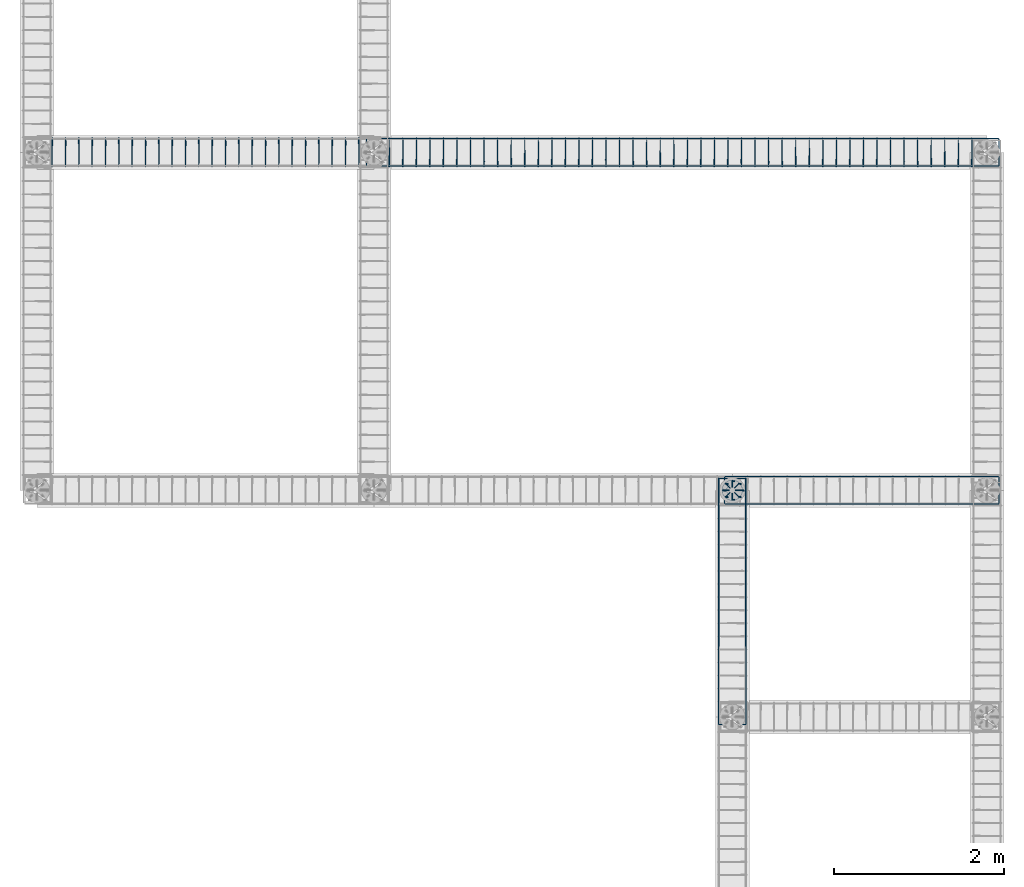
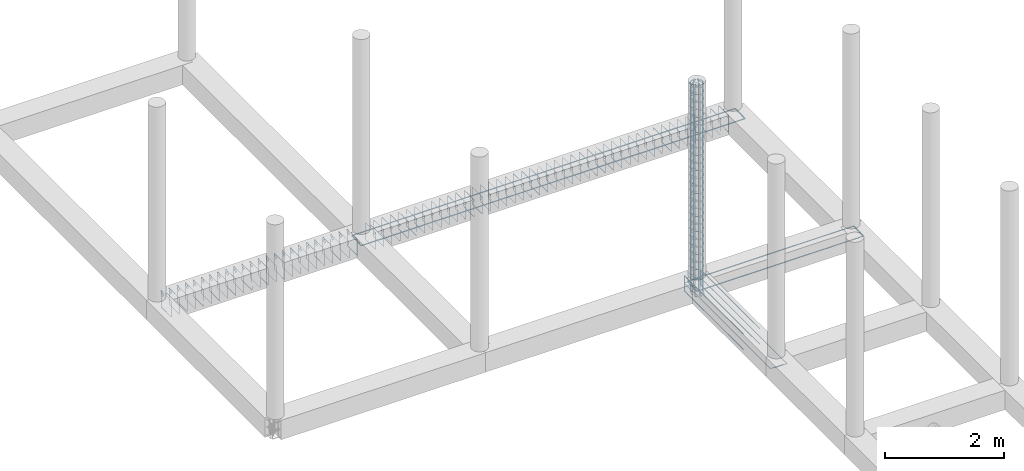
# One storey, part 13 of 20: 8 reinforcing bars.
"""IFC4 building model written with IfcOpenShell, lengths in metres."""

import ifcopenshell
import ifcopenshell.guid

model = None  # the IFC model being written
_history = None  # IfcOwnerHistory: only IFC2X3 demands one
_inside = {}  # id of a spatial element -> (the spatial element, [elements in it])
_under = {}  # id of a project, library or spatial element -> (it, [spatial elements below it])
_declared = {}  # id of a project -> (the project, [libraries it declares])
_typed = {}  # id of a type object -> (the type object, [elements of that type])
_made_of = {}  # id of a material, layer set ... -> (it, [elements and type objects made of it])


def new_model(schema):
    """Start an empty IFC model of exactly this schema.

    Asked for "IFC4X3", IfcOpenShell would pick the latest addendum, in which some entities
    have other attributes; the version numbers below select the first issue.
    IFC2X3 requires an IfcOwnerHistory on every rooted entity: one is made here for all.
    """
    global model, _history
    if schema == "IFC4X3":
        model = ifcopenshell.file(schema_version=(4, 3, 0, 0))
    else:
        model = ifcopenshell.file(schema=schema)
    _inside.clear()
    _under.clear()
    _declared.clear()
    _typed.clear()
    _made_of.clear()
    _history = None
    if model.schema == "IFC2X3":
        org = make("IfcOrganization", Name="unknown")
        user = make(
            "IfcPersonAndOrganization",
            ThePerson=make("IfcPerson", FamilyName="unknown"),
            TheOrganization=org,
        )
        app = make(
            "IfcApplication",
            ApplicationDeveloper=org,
            Version="unknown",
            ApplicationFullName="unknown",
            ApplicationIdentifier="unknown",
        )
        _history = make(
            "IfcOwnerHistory",
            OwningUser=user,
            OwningApplication=app,
            ChangeAction="ADDED",
            CreationDate=0,
        )
    return model


def make(cls, **values):
    """One entity of the class cls with the attributes given. An attribute that is None is left unset."""
    return model.create_entity(
        cls, **{name: value for name, value in values.items() if value is not None}
    )


def entity(cls, *values):
    """Any entity or typed value of the class cls, its attributes in the order of the schema. None: left unset."""
    e = model.create_entity(cls)
    for i, value in enumerate(values):
        if value is not None:
            e[i] = value
    return e


def rooted(cls, **values):
    """An entity with a GlobalId (a new one), such as an element, a storey or a relation."""
    return make(cls, GlobalId=ifcopenshell.guid.new(), OwnerHistory=_history, **values)


def si_unit(unit_type, name, prefix=None):
    """IfcSIUnit, for example si_unit("LENGTHUNIT", "METRE", prefix="MILLI")."""
    return make("IfcSIUnit", UnitType=unit_type, Prefix=prefix, Name=name)


def assignment(units):
    """IfcUnitAssignment: the units of a project."""
    return None if units is None else make("IfcUnitAssignment", Units=units)


def point(xyz):
    """IfcCartesianPoint."""
    return None if xyz is None else make("IfcCartesianPoint", Coordinates=xyz)


def direction(xyz):
    """IfcDirection."""
    return None if xyz is None else make("IfcDirection", DirectionRatios=xyz)


def frame(location, z_axis=None, x_axis=None):
    """IfcAxis2Placement3D, a coordinate frame: its origin and axes. An axis left out is left unset."""
    return make(
        "IfcAxis2Placement3D",
        Location=point(location),
        Axis=direction(z_axis),
        RefDirection=direction(x_axis),
    )


def origin_with_axes():
    """The frame at (0, 0, 0) with the z axis (0, 0, 1) and the x axis (1, 0, 0) written out."""
    return frame((0.0, 0.0, 0.0), z_axis=(0.0, 0.0, 1.0), x_axis=(1.0, 0.0, 0.0))


def place(relative_to, where):
    """IfcLocalPlacement: puts the frame where relative to a parent placement (None: the world)."""
    return make(
        "IfcLocalPlacement", PlacementRelTo=relative_to, RelativePlacement=where
    )


def context(
    kind, dimensions, precision=None, world=None, true_north=None, identifier=None
):
    """IfcGeometricRepresentationContext, for example the 3D "Model" context."""
    return make(
        "IfcGeometricRepresentationContext",
        ContextIdentifier=identifier,
        ContextType=kind,
        CoordinateSpaceDimension=dimensions,
        Precision=precision,
        WorldCoordinateSystem=world,
        TrueNorth=true_north,
    )


def project(units=None, contexts=None):
    """IfcProject with its units and contexts."""
    return rooted(
        "IfcProject",
        Name="project",
        RepresentationContexts=contexts,
        UnitsInContext=assignment(units),
    )


def spatial(cls, under=None, at=None, **own):
    """A site, building, storey or space (cls), placed at a placement, below another one or the project."""
    s = rooted(cls, ObjectPlacement=at, **own)
    if under is not None:
        _under.setdefault(under.id(), (under, []))[1].append(s)
    return s


def shape(context_of_items, identifier, shape_type, items):
    """IfcShapeRepresentation: the items that make up one representation, for example the "Body"."""
    return make(
        "IfcShapeRepresentation",
        ContextOfItems=context_of_items,
        RepresentationIdentifier=identifier,
        RepresentationType=shape_type,
        Items=items,
    )


def source(mapping_origin, context_of_items, identifier, shape_type, items):
    """IfcRepresentationMap: a shape defined once, which mapped items show again and again."""
    return make(
        "IfcRepresentationMap",
        MappingOrigin=mapping_origin,
        MappedRepresentation=shape(context_of_items, identifier, shape_type, items),
    )


def transform(
    local_origin,
    x_axis=None,
    y_axis=None,
    z_axis=None,
    scale=None,
    scale2=None,
    scale3=None,
    uniform=True,
):
    """IfcCartesianTransformationOperator3D, or its non-uniform kind. x_axis, y_axis, z_axis: its Axis1, 2, 3."""
    if uniform:
        return make(
            "IfcCartesianTransformationOperator3D",
            Axis1=direction(x_axis),
            Axis2=direction(y_axis),
            LocalOrigin=point(local_origin),
            Scale=scale,
            Axis3=direction(z_axis),
        )
    return make(
        "IfcCartesianTransformationOperator3DnonUniform",
        Axis1=direction(x_axis),
        Axis2=direction(y_axis),
        LocalOrigin=point(local_origin),
        Scale=scale,
        Axis3=direction(z_axis),
        Scale2=scale2,
        Scale3=scale3,
    )


def mapped(mapping_source, mapping_target):
    """IfcMappedItem: shows the shape of a source again, moved by a transform."""
    return make(
        "IfcMappedItem", MappingSource=mapping_source, MappingTarget=mapping_target
    )


def made_of(thing, what):
    """Note that an element or type object is made of a material, layer set ...; save() writes the relation."""
    if what is not None:
        _made_of.setdefault(what.id(), (what, []))[1].append(thing)
    return thing


def element(
    cls,
    number,
    at=None,
    inside=None,
    cuts=None,
    type_object=None,
    material=None,
    context=None,
    identifier="Body",
    shape_type=None,
    held_by="IfcProductDefinitionShape",
    body=None,
    shapes=None,
    **own,
):
    """One element of the class cls, such as IfcWall. Its Tag is "e" and its number.

    at: its placement. inside: the storey or other place that contains it. cuts: it is an
    opening in that element (IfcRelVoidsElement). A single representation is given by context,
    identifier, shape_type and body (its items); several are given by shapes. held_by: the class
    of the entity that holds the representations. save() writes the other relations.
    """
    e = rooted(cls, Tag="e%d" % number, ObjectPlacement=at, **own)
    if body is not None:
        shapes = [shape(context, identifier, shape_type, body)]
    if shapes is not None:
        e.Representation = make(held_by, Representations=shapes)
    if inside is not None:
        _inside.setdefault(inside.id(), (inside, []))[1].append(e)
    if cuts is not None:
        rooted(
            "IfcRelVoidsElement", RelatingBuildingElement=cuts, RelatedOpeningElement=e
        )
    if type_object is not None:
        _typed.setdefault(type_object.id(), (type_object, []))[1].append(e)
    return made_of(e, material)


def aggregate(whole, parts):
    """IfcRelAggregates: a whole, such as a stair, and the parts it consists of."""
    return rooted("IfcRelAggregates", RelatingObject=whole, RelatedObjects=parts)


def save(model, path):
    """Write the relations noted so far, then the file.

    IfcRelAggregates (storeys below a building ...), IfcRelContainedInSpatialStructure (elements
    in a storey), IfcRelDefinesByType, IfcRelAssociatesMaterial and IfcRelDeclares: one each for
    every whole, place, type object, material and project.
    """
    for whole, parts in _under.values():
        aggregate(whole, parts)
    for where, things in _inside.values():
        rooted(
            "IfcRelContainedInSpatialStructure",
            RelatedElements=things,
            RelatingStructure=where,
        )
    for kind, things in _typed.values():
        rooted("IfcRelDefinesByType", RelatedObjects=things, RelatingType=kind)
    for what, things in _made_of.values():
        rooted("IfcRelAssociatesMaterial", RelatedObjects=things, RelatingMaterial=what)
    for by, libraries in _declared.values():
        rooted("IfcRelDeclares", RelatingContext=by, RelatedDefinitions=libraries)
    model.write(path)


model = new_model("IFC4")

# Units and contexts
model_context = context("Model", 3, precision=1e-05, world=origin_with_axes())
ifc_project = project(units=[si_unit("LENGTHUNIT", "METRE"), si_unit("AREAUNIT", "SQUARE_METRE"), si_unit("VOLUMEUNIT", "CUBIC_METRE"), si_unit("MASSUNIT", "GRAM", prefix="KILO"), si_unit("TIMEUNIT", "SECOND"), si_unit("PLANEANGLEUNIT", "RADIAN"), si_unit("SOLIDANGLEUNIT", "STERADIAN"), si_unit("THERMODYNAMICTEMPERATUREUNIT", "DEGREE_CELSIUS")], contexts=[model_context])

# Site, building, storey
placement_1 = place(None, origin_with_axes())
site = spatial("IfcSite", under=ifc_project, at=placement_1, Name="Italia", CompositionType="ELEMENT")
building = spatial("IfcBuilding", under=site, at=placement_1, Name="Tettoia", CompositionType="ELEMENT")
storey = spatial("IfcBuildingStorey", under=building, at=placement_1, Name="Storey 0", CompositionType="ELEMENT", Elevation=0.0)

# Reinforcing bars
shared_shape_1 = source(origin_with_axes(), model_context, "Body", "AdvancedSweptSolid", [
    entity("IfcSweptDiskSolid", entity("IfcIndexedPolyCurve", entity("IfcCartesianPointList3D", [[8.21102, 9.96605, -0.375], [8.19714, 9.96787, -0.375], [8.19097, 9.96869, -0.373761], [8.18573, 9.96938, -0.370231], [8.18223, 9.96984, -0.364949], [8.181, 9.97, -0.358718], [8.181, 9.97, 0.5725]]), [entity("IfcLineIndex", [1, 2]), entity("IfcLineIndex", [2, 3]), entity("IfcLineIndex", [3, 4]), entity("IfcLineIndex", [4, 5]), entity("IfcLineIndex", [5, 6]), entity("IfcLineIndex", [6, 7])], False), 0.007),
])
placement_2 = place(placement_1, origin_with_axes())
reinforcing_bar_1_placement = place(placement_2, origin_with_axes())
element("IfcReinforcingBar", 1, at=reinforcing_bar_1_placement, inside=storey, BarLength=0.97063, CrossSectionArea=0.00015394, NominalDiameter=0.014, context=model_context, shape_type="MappedRepresentation", body=[
    mapped(shared_shape_1, transform((0.186074, -0.0770741, 0.0), x_axis=(1.0, 0.0, 0.0), y_axis=(0.0, 1.0, 0.0), z_axis=(0.0, 0.0, 1.0), scale=1.0)),
    mapped(shared_shape_1, transform((0.0319252, -0.0770741, 0.0), x_axis=(1.0, 0.0, 0.0), y_axis=(0.0, 1.0, 0.0), z_axis=(0.0, 0.0, 1.0), scale=1.0)),
    mapped(shared_shape_1, transform((0.108999, -0.108999, 0.0), x_axis=(1.0, 0.0, 0.0), y_axis=(0.0, 1.0, 0.0), z_axis=(0.0, 0.0, 1.0), scale=1.0)),
    mapped(shared_shape_1, transform((0.218088, -7.24792e-05, 0.0), x_axis=(1.0, 0.0, 0.0), y_axis=(0.0, 1.0, 0.0), z_axis=(0.0, 0.0, 1.0), scale=1.0)),
    mapped(shared_shape_1, transform((0.0320139, 0.0770025, 0.0), x_axis=(1.0, 0.0, 0.0), y_axis=(0.0, 1.0, 0.0), z_axis=(0.0, 0.0, 1.0), scale=1.0)),
    mapped(shared_shape_1, transform((0.0, 0.0, 0.0), x_axis=(1.0, 0.0, 0.0), y_axis=(0.0, 1.0, 0.0), z_axis=(0.0, 0.0, 1.0), scale=1.0)),
    mapped(shared_shape_1, transform((0.186163, 0.0770025, 0.0), x_axis=(1.0, 0.0, 0.0), y_axis=(0.0, 1.0, 0.0), z_axis=(0.0, 0.0, 1.0), scale=1.0)),
    mapped(shared_shape_1, transform((0.109177, 0.108853, 0.0), x_axis=(1.0, 1.78516e-05, 0.0), y_axis=(-1.78516e-05, 1.0, 0.0), z_axis=(0.0, 0.0, 1.0), scale=1.0)),
])
shared_shape_2 = source(origin_with_axes(), model_context, "Body", "AdvancedSweptSolid", [
    entity("IfcSweptDiskSolid", entity("IfcIndexedPolyCurve", entity("IfcCartesianPointList3D", [[8.181, 9.97, 0.0], [8.181, 9.97, 3.94], [8.18367, 9.97, 3.95339], [8.19125, 9.97, 3.96475], [8.20261, 9.97, 3.97234], [8.216, 9.97, 3.975], [8.256, 9.97, 3.975]]), [entity("IfcLineIndex", [1, 2]), entity("IfcLineIndex", [2, 3]), entity("IfcLineIndex", [3, 4]), entity("IfcLineIndex", [4, 5]), entity("IfcLineIndex", [5, 6]), entity("IfcLineIndex", [6, 7])], False), 0.007),
])
reinforcing_bar_2_placement = place(placement_2, origin_with_axes())
element("IfcReinforcingBar", 2, at=reinforcing_bar_2_placement, inside=storey, BarLength=4.03463, CrossSectionArea=0.00015394, NominalDiameter=0.014, context=model_context, shape_type="MappedRepresentation", body=[
    mapped(shared_shape_2, transform((21.2018, 11.1579, 0.0), x_axis=(-0.707107, 0.707107, 0.0), y_axis=(-0.707107, -0.707107, 0.0), z_axis=(0.0, 0.0, 1.0), scale=1.0)),
    mapped(shared_shape_2, transform((16.58, 19.94, 0.0), x_axis=(-1.0, 0.0, 0.0), y_axis=(0.0, -1.0, 0.0), z_axis=(0.0, 0.0, 1.0), scale=1.0)),
    mapped(shared_shape_2, transform((9.47794, -2.94177, 0.0), x_axis=(0.707107, 0.707107, 0.0), y_axis=(-0.707107, 0.707107, 0.0), z_axis=(0.0, 0.0, 1.0), scale=1.0)),
    mapped(shared_shape_2, transform((18.26, 1.68, 0.0), x_axis=(0.0, 1.0, 0.0), y_axis=(-1.0, 0.0, 0.0), z_axis=(0.0, 0.0, 1.0), scale=1.0)),
    mapped(shared_shape_2, transform((-4.62177, 8.78206, 0.0), x_axis=(0.707107, -0.707107, 0.0), y_axis=(0.707107, 0.707107, 0.0), z_axis=(0.0, 0.0, 1.0), scale=1.0)),
    mapped(shared_shape_2, transform((0.0, 0.0, 0.0), x_axis=(1.0, 0.0, 0.0), y_axis=(0.0, 1.0, 0.0), z_axis=(0.0, 0.0, 1.0), scale=1.0)),
    mapped(shared_shape_2, transform((7.10206, 22.8818, 0.0), x_axis=(-0.707107, -0.707107, 0.0), y_axis=(0.707107, -0.707107, 0.0), z_axis=(0.0, 0.0, 1.0), scale=1.0)),
    mapped(shared_shape_2, transform((-1.68, 18.26, 0.0), x_axis=(0.0, -1.0, 0.0), y_axis=(1.0, 0.0, 0.0), z_axis=(0.0, 0.0, 1.0), scale=1.0)),
])
shared_shape_3 = source(origin_with_axes(), model_context, "Body", "AdvancedSweptSolid", [
    entity("IfcSweptDiskSolid", entity("IfcIndexedPolyCurve", entity("IfcCartesianPointList3D", [[8.25909, 9.90856, 0.029], [8.19569, 9.98046, 0.029], [8.18882, 9.98383, 0.029], [8.18197, 9.98426, 0.029], [8.17811, 9.98374, 0.029], [8.17473, 9.98178, 0.029], [8.17237, 9.97867, 0.029], [8.17137, 9.9749, 0.029], [8.1711, 9.97071, 0.029], [8.17111, 9.96929, 0.029], [8.17246, 9.95218, 0.029], [8.17271, 9.95063, 0.029], [8.1767, 9.93401, 0.029], [8.17718, 9.93252, 0.029], [8.18372, 9.91673, 0.029], [8.18443, 9.91533, 0.029], [8.19336, 9.90076, 0.029], [8.19429, 9.89949, 0.029], [8.20538, 9.88649, 0.029], [8.20649, 9.88538, 0.029], [8.21949, 9.87429, 0.029], [8.22076, 9.87336, 0.029], [8.23533, 9.86443, 0.029], [8.23673, 9.86372, 0.029], [8.25252, 9.85718, 0.029], [8.25401, 9.8567, 0.029], [8.27063, 9.85271, 0.029], [8.27218, 9.85246, 0.029], [8.28922, 9.85112, 0.029], [8.29078, 9.85112, 0.029], [8.30782, 9.85246, 0.029], [8.30937, 9.85271, 0.029], [8.32599, 9.8567, 0.029], [8.32748, 9.85718, 0.029], [8.34327, 9.86372, 0.029], [8.34467, 9.86443, 0.029], [8.35924, 9.87336, 0.029], [8.36051, 9.87429, 0.029], [8.37351, 9.88538, 0.029], [8.37462, 9.88649, 0.029], [8.38571, 9.89949, 0.029], [8.38664, 9.90076, 0.029], [8.39557, 9.91533, 0.029], [8.39628, 9.91673, 0.029], [8.40282, 9.93252, 0.029], [8.4033, 9.93401, 0.029], [8.40729, 9.95063, 0.029], [8.40754, 9.95218, 0.029], [8.40888, 9.96922, 0.029], [8.40888, 9.97079, 0.029], [8.40754, 9.98782, 0.029], [8.40729, 9.98937, 0.029], [8.4033, 10.006, 0.029], [8.40282, 10.0075, 0.029], [8.39628, 10.0233, 0.029], [8.39557, 10.0247, 0.029], [8.38664, 10.0392, 0.029], [8.38571, 10.0405, 0.029], [8.37462, 10.0535, 0.029], [8.37351, 10.0546, 0.029], [8.36051, 10.0657, 0.029], [8.35924, 10.0666, 0.029], [8.34467, 10.0756, 0.029], [8.34327, 10.0763, 0.029], [8.32748, 10.0828, 0.029], [8.32599, 10.0833, 0.029], [8.30937, 10.0873, 0.029], [8.30782, 10.0875, 0.029], [8.29078, 10.0889, 0.029], [8.28922, 10.0889, 0.029], [8.27218, 10.0875, 0.029], [8.27063, 10.0873, 0.029], [8.25401, 10.0833, 0.029], [8.25252, 10.0828, 0.029], [8.23673, 10.0763, 0.029], [8.23533, 10.0756, 0.029], [8.22076, 10.0666, 0.029], [8.21949, 10.0657, 0.029], [8.20649, 10.0546, 0.029], [8.20539, 10.0535, 0.029], [8.19429, 10.0405, 0.029], [8.19336, 10.0392, 0.029], [8.18443, 10.0247, 0.029], [8.18372, 10.0233, 0.029], [8.17718, 10.0075, 0.029], [8.1767, 10.006, 0.029], [8.17271, 9.98937, 0.029], [8.17246, 9.98782, 0.029], [8.17111, 9.97071, 0.029], [8.1711, 9.96929, 0.029], [8.17137, 9.9651, 0.029], [8.17237, 9.96133, 0.029], [8.17473, 9.95823, 0.029], [8.17811, 9.95626, 0.029], [8.18197, 9.95574, 0.029], [8.18882, 9.95617, 0.029], [8.19569, 9.95954, 0.029], [8.25909, 10.0314, 0.029]]), [entity("IfcLineIndex", [1, 2]), entity("IfcLineIndex", [2, 3]), entity("IfcLineIndex", [3, 4]), entity("IfcLineIndex", [4, 5]), entity("IfcLineIndex", [5, 6]), entity("IfcLineIndex", [6, 7]), entity("IfcLineIndex", [7, 8]), entity("IfcLineIndex", [8, 9]), entity("IfcLineIndex", [9, 10]), entity("IfcLineIndex", [10, 11]), entity("IfcLineIndex", [11, 12]), entity("IfcLineIndex", [12, 13]), entity("IfcLineIndex", [13, 14]), entity("IfcLineIndex", [14, 15]), entity("IfcLineIndex", [15, 16]), entity("IfcLineIndex", [16, 17]), entity("IfcLineIndex", [17, 18]), entity("IfcLineIndex", [18, 19]), entity("IfcLineIndex", [19, 20]), entity("IfcLineIndex", [20, 21]), entity("IfcLineIndex", [21, 22]), entity("IfcLineIndex", [22, 23]), entity("IfcLineIndex", [23, 24]), entity("IfcLineIndex", [24, 25]), entity("IfcLineIndex", [25, 26]), entity("IfcLineIndex", [26, 27]), entity("IfcLineIndex", [27, 28]), entity("IfcLineIndex", [28, 29]), entity("IfcLineIndex", [29, 30]), entity("IfcLineIndex", [30, 31]), entity("IfcLineIndex", [31, 32]), entity("IfcLineIndex", [32, 33]), entity("IfcLineIndex", [33, 34]), entity("IfcLineIndex", [34, 35]), entity("IfcLineIndex", [35, 36]), entity("IfcLineIndex", [36, 37]), entity("IfcLineIndex", [37, 38]), entity("IfcLineIndex", [38, 39]), entity("IfcLineIndex", [39, 40]), entity("IfcLineIndex", [40, 41]), entity("IfcLineIndex", [41, 42]), entity("IfcLineIndex", [42, 43]), entity("IfcLineIndex", [43, 44]), entity("IfcLineIndex", [44, 45]), entity("IfcLineIndex", [45, 46]), entity("IfcLineIndex", [46, 47]), entity("IfcLineIndex", [47, 48]), entity("IfcLineIndex", [48, 49]), entity("IfcLineIndex", [49, 50]), entity("IfcLineIndex", [50, 51]), entity("IfcLineIndex", [51, 52]), entity("IfcLineIndex", [52, 53]), entity("IfcLineIndex", [53, 54]), entity("IfcLineIndex", [54, 55]), entity("IfcLineIndex", [55, 56]), entity("IfcLineIndex", [56, 57]), entity("IfcLineIndex", [57, 58]), entity("IfcLineIndex", [58, 59]), entity("IfcLineIndex", [59, 60]), entity("IfcLineIndex", [60, 61]), entity("IfcLineIndex", [61, 62]), entity("IfcLineIndex", [62, 63]), entity("IfcLineIndex", [63, 64]), entity("IfcLineIndex", [64, 65]), entity("IfcLineIndex", [65, 66]), entity("IfcLineIndex", [66, 67]), entity("IfcLineIndex", [67, 68]), entity("IfcLineIndex", [68, 69]), entity("IfcLineIndex", [69, 70]), entity("IfcLineIndex", [70, 71]), entity("IfcLineIndex", [71, 72]), entity("IfcLineIndex", [72, 73]), entity("IfcLineIndex", [73, 74]), entity("IfcLineIndex", [74, 75]), entity("IfcLineIndex", [75, 76]), entity("IfcLineIndex", [76, 77]), entity("IfcLineIndex", [77, 78]), entity("IfcLineIndex", [78, 79]), entity("IfcLineIndex", [79, 80]), entity("IfcLineIndex", [80, 81]), entity("IfcLineIndex", [81, 82]), entity("IfcLineIndex", [82, 83]), entity("IfcLineIndex", [83, 84]), entity("IfcLineIndex", [84, 85]), entity("IfcLineIndex", [85, 86]), entity("IfcLineIndex", [86, 87]), entity("IfcLineIndex", [87, 88]), entity("IfcLineIndex", [88, 89]), entity("IfcLineIndex", [89, 90]), entity("IfcLineIndex", [90, 91]), entity("IfcLineIndex", [91, 92]), entity("IfcLineIndex", [92, 93]), entity("IfcLineIndex", [93, 94]), entity("IfcLineIndex", [94, 95]), entity("IfcLineIndex", [95, 96]), entity("IfcLineIndex", [96, 97]), entity("IfcLineIndex", [97, 98])], False), 0.004),
])
reinforcing_bar_3_placement = place(placement_2, origin_with_axes())
element("IfcReinforcingBar", 3, at=reinforcing_bar_3_placement, inside=storey, BarLength=1.00814, CrossSectionArea=5.0265e-05, NominalDiameter=0.008, context=model_context, shape_type="MappedRepresentation", body=[
    mapped(shared_shape_3, transform((0.0, 0.0, 1.8768), x_axis=(1.0, 0.0, 0.0), y_axis=(0.0, 1.0, 0.0), z_axis=(0.0, 0.0, 1.0), scale=1.0)),
    mapped(shared_shape_3, transform((0.0, 0.0, 1.7204), x_axis=(1.0, 0.0, 0.0), y_axis=(0.0, 1.0, 0.0), z_axis=(0.0, 0.0, 1.0), scale=1.0)),
    mapped(shared_shape_3, transform((0.0, 0.0, 1.0948), x_axis=(1.0, 0.0, 0.0), y_axis=(0.0, 1.0, 0.0), z_axis=(0.0, 0.0, 1.0), scale=1.0)),
    mapped(shared_shape_3, transform((0.0, 0.0, 1.4076), x_axis=(1.0, 0.0, 0.0), y_axis=(0.0, 1.0, 0.0), z_axis=(0.0, 0.0, 1.0), scale=1.0)),
    mapped(shared_shape_3, transform((0.0, 0.0, 1.2512), x_axis=(1.0, 0.0, 0.0), y_axis=(0.0, 1.0, 0.0), z_axis=(0.0, 0.0, 1.0), scale=1.0)),
    mapped(shared_shape_3, transform((0.0, 0.0, 1.564), x_axis=(1.0, 0.0, 0.0), y_axis=(0.0, 1.0, 0.0), z_axis=(0.0, 0.0, 1.0), scale=1.0)),
    mapped(shared_shape_3, transform((0.0, 0.0, 0.9384), x_axis=(1.0, 0.0, 0.0), y_axis=(0.0, 1.0, 0.0), z_axis=(0.0, 0.0, 1.0), scale=1.0)),
    mapped(shared_shape_3, transform((0.0, 0.0, 0.782), x_axis=(1.0, 0.0, 0.0), y_axis=(0.0, 1.0, 0.0), z_axis=(0.0, 0.0, 1.0), scale=1.0)),
    mapped(shared_shape_3, transform((0.0, 0.0, 0.1564), x_axis=(1.0, 0.0, 0.0), y_axis=(0.0, 1.0, 0.0), z_axis=(0.0, 0.0, 1.0), scale=1.0)),
    mapped(shared_shape_3, transform((0.0, 0.0, 0.4692), x_axis=(1.0, 0.0, 0.0), y_axis=(0.0, 1.0, 0.0), z_axis=(0.0, 0.0, 1.0), scale=1.0)),
    mapped(shared_shape_3, transform((0.0, 0.0, 0.3128), x_axis=(1.0, 0.0, 0.0), y_axis=(0.0, 1.0, 0.0), z_axis=(0.0, 0.0, 1.0), scale=1.0)),
    mapped(shared_shape_3, transform((0.0, 0.0, 0.6256), x_axis=(1.0, 0.0, 0.0), y_axis=(0.0, 1.0, 0.0), z_axis=(0.0, 0.0, 1.0), scale=1.0)),
    mapped(shared_shape_3, transform((0.0, 0.0, 0.0), x_axis=(1.0, 0.0, 0.0), y_axis=(0.0, 1.0, 0.0), z_axis=(0.0, 0.0, 1.0), scale=1.0)),
    mapped(shared_shape_3, transform((0.0, 0.0, 3.91), x_axis=(1.0, 0.0, 0.0), y_axis=(0.0, 1.0, 0.0), z_axis=(0.0, 0.0, 1.0), scale=1.0)),
    mapped(shared_shape_3, transform((0.0, 0.0, 3.2844), x_axis=(1.0, 0.0, 0.0), y_axis=(0.0, 1.0, 0.0), z_axis=(0.0, 0.0, 1.0), scale=1.0)),
    mapped(shared_shape_3, transform((0.0, 0.0, 3.5972), x_axis=(1.0, 0.0, 0.0), y_axis=(0.0, 1.0, 0.0), z_axis=(0.0, 0.0, 1.0), scale=1.0)),
    mapped(shared_shape_3, transform((0.0, 0.0, 3.4408), x_axis=(1.0, 0.0, 0.0), y_axis=(0.0, 1.0, 0.0), z_axis=(0.0, 0.0, 1.0), scale=1.0)),
    mapped(shared_shape_3, transform((0.0, 0.0, 3.7536), x_axis=(1.0, 0.0, 0.0), y_axis=(0.0, 1.0, 0.0), z_axis=(0.0, 0.0, 1.0), scale=1.0)),
    mapped(shared_shape_3, transform((0.0, 0.0, 3.128), x_axis=(1.0, 0.0, 0.0), y_axis=(0.0, 1.0, 0.0), z_axis=(0.0, 0.0, 1.0), scale=1.0)),
    mapped(shared_shape_3, transform((0.0, 0.0, 2.9716), x_axis=(1.0, 0.0, 0.0), y_axis=(0.0, 1.0, 0.0), z_axis=(0.0, 0.0, 1.0), scale=1.0)),
    mapped(shared_shape_3, transform((0.0, 0.0, 2.346), x_axis=(1.0, 0.0, 0.0), y_axis=(0.0, 1.0, 0.0), z_axis=(0.0, 0.0, 1.0), scale=1.0)),
    mapped(shared_shape_3, transform((0.0, 0.0, 2.6588), x_axis=(1.0, 0.0, 0.0), y_axis=(0.0, 1.0, 0.0), z_axis=(0.0, 0.0, 1.0), scale=1.0)),
    mapped(shared_shape_3, transform((0.0, 0.0, 2.5024), x_axis=(1.0, 0.0, 0.0), y_axis=(0.0, 1.0, 0.0), z_axis=(0.0, 0.0, 1.0), scale=1.0)),
    mapped(shared_shape_3, transform((0.0, 0.0, 2.8152), x_axis=(1.0, 0.0, 0.0), y_axis=(0.0, 1.0, 0.0), z_axis=(0.0, 0.0, 1.0), scale=1.0)),
    mapped(shared_shape_3, transform((0.0, 0.0, 2.1896), x_axis=(1.0, 0.0, 0.0), y_axis=(0.0, 1.0, 0.0), z_axis=(0.0, 0.0, 1.0), scale=1.0)),
    mapped(shared_shape_3, transform((0.0, 0.0, 2.0332), x_axis=(1.0, 0.0, 0.0), y_axis=(0.0, 1.0, 0.0), z_axis=(0.0, 0.0, 1.0), scale=1.0)),
])
shared_shape_4 = source(origin_with_axes(), model_context, "Body", "AdvancedSweptSolid", [
    entity("IfcSweptDiskSolid", entity("IfcIndexedPolyCurve", entity("IfcCartesianPointList3D", [[8.2, 9.881, -0.194], [8.2, 10.121, -0.194], [8.20076, 10.1248, -0.194], [8.20293, 10.1281, -0.194], [8.20617, 10.1302, -0.194], [8.21, 10.131, -0.194], [11.42, 10.131, -0.194], [11.4238, 10.1302, -0.194], [11.4271, 10.1281, -0.194], [11.4292, 10.1248, -0.194], [11.43, 10.121, -0.194], [11.43, 9.881, -0.194]]), [entity("IfcLineIndex", [1, 2]), entity("IfcLineIndex", [2, 3]), entity("IfcLineIndex", [3, 4]), entity("IfcLineIndex", [4, 5]), entity("IfcLineIndex", [5, 6]), entity("IfcLineIndex", [6, 7]), entity("IfcLineIndex", [7, 8]), entity("IfcLineIndex", [8, 9]), entity("IfcLineIndex", [9, 10]), entity("IfcLineIndex", [10, 11]), entity("IfcLineIndex", [11, 12])], False), 0.006),
])
reinforcing_bar_4_placement = place(placement_2, origin_with_axes())
element("IfcReinforcingBar", 4, at=reinforcing_bar_4_placement, inside=storey, BarLength=3.72121, CrossSectionArea=0.0001131, NominalDiameter=0.012, context=model_context, shape_type="MappedRepresentation", body=[
    mapped(shared_shape_4, transform((0.0, 19.94, -0.4), x_axis=(1.0, 0.0, 0.0), y_axis=(0.0, -1.0, 0.0), z_axis=(0.0, 0.0, -1.0), scale=1.0)),
    mapped(shared_shape_4, transform((0.0, 0.0, 0.0), x_axis=(1.0, 0.0, 0.0), y_axis=(0.0, 1.0, 0.0), z_axis=(0.0, 0.0, 1.0), scale=1.0)),
])
shared_shape_5 = source(origin_with_axes(), model_context, "Body", "AdvancedSweptSolid", [
    entity("IfcSweptDiskSolid", entity("IfcIndexedPolyCurve", entity("IfcCartesianPointList3D", [[0.275, 14.0503, -0.120711], [0.275556, 14.1181, -0.0529289], [0.2756, 14.121, -0.0458579], [0.27564, 14.121, -0.039], [0.275663, 14.1202, -0.0351732], [0.275685, 14.1181, -0.0319289], [0.275708, 14.1148, -0.0297612], [0.27573, 14.111, -0.029], [0.277597, 13.789, -0.029], [0.27762, 13.7852, -0.0297612], [0.277643, 13.7819, -0.0319289], [0.277665, 13.7798, -0.0351732], [0.277688, 13.779, -0.039], [0.279555, 13.779, -0.361], [0.279577, 13.7798, -0.364827], [0.2796, 13.7819, -0.368071], [0.279623, 13.7852, -0.370239], [0.279645, 13.789, -0.371], [0.281512, 14.111, -0.371], [0.281535, 14.1148, -0.370239], [0.281558, 14.1181, -0.368071], [0.28158, 14.1202, -0.364827], [0.281603, 14.121, -0.361], [0.28347, 14.121, -0.039], [0.283493, 14.1202, -0.0351732], [0.283515, 14.1181, -0.0319289], [0.283538, 14.1148, -0.0297612], [0.283561, 14.111, -0.029], [0.2836, 14.1041, -0.029], [0.283645, 14.0971, -0.0319289], [0.2842, 14.0293, -0.0997114]]), [entity("IfcLineIndex", [1, 2]), entity("IfcLineIndex", [2, 3]), entity("IfcLineIndex", [3, 4]), entity("IfcLineIndex", [4, 5]), entity("IfcLineIndex", [5, 6]), entity("IfcLineIndex", [6, 7]), entity("IfcLineIndex", [7, 8]), entity("IfcLineIndex", [8, 9]), entity("IfcLineIndex", [9, 10]), entity("IfcLineIndex", [10, 11]), entity("IfcLineIndex", [11, 12]), entity("IfcLineIndex", [12, 13]), entity("IfcLineIndex", [13, 14]), entity("IfcLineIndex", [14, 15]), entity("IfcLineIndex", [15, 16]), entity("IfcLineIndex", [16, 17]), entity("IfcLineIndex", [17, 18]), entity("IfcLineIndex", [18, 19]), entity("IfcLineIndex", [19, 20]), entity("IfcLineIndex", [20, 21]), entity("IfcLineIndex", [21, 22]), entity("IfcLineIndex", [22, 23]), entity("IfcLineIndex", [23, 24]), entity("IfcLineIndex", [24, 25]), entity("IfcLineIndex", [25, 26]), entity("IfcLineIndex", [26, 27]), entity("IfcLineIndex", [27, 28]), entity("IfcLineIndex", [28, 29]), entity("IfcLineIndex", [29, 30]), entity("IfcLineIndex", [30, 31])], False), 0.004),
])
reinforcing_bar_5_placement = place(placement_2, origin_with_axes())
element("IfcReinforcingBar", 5, at=reinforcing_bar_5_placement, inside=storey, BarLength=1.5868, CrossSectionArea=5.0265e-05, NominalDiameter=0.008, context=model_context, shape_type="MappedRepresentation", body=[
    mapped(shared_shape_5, transform((0.785217, 0.0, 0.0), x_axis=(1.0, 0.0, 0.0), y_axis=(0.0, 1.0, 0.0), z_axis=(0.0, 0.0, 1.0), scale=1.0)),
    mapped(shared_shape_5, transform((0.628174, 0.0, 0.0), x_axis=(1.0, 0.0, 0.0), y_axis=(0.0, 1.0, 0.0), z_axis=(0.0, 0.0, 1.0), scale=1.0)),
    mapped(shared_shape_5, transform((1.0993, 0.0, 0.0), x_axis=(1.0, 0.0, 0.0), y_axis=(0.0, 1.0, 0.0), z_axis=(0.0, 0.0, 1.0), scale=1.0)),
    mapped(shared_shape_5, transform((0.942261, 0.0, 0.0), x_axis=(1.0, 0.0, 0.0), y_axis=(0.0, 1.0, 0.0), z_axis=(0.0, 0.0, 1.0), scale=1.0)),
    mapped(shared_shape_5, transform((0.157043, 0.0, 0.0), x_axis=(1.0, 0.0, 0.0), y_axis=(0.0, 1.0, 0.0), z_axis=(0.0, 0.0, 1.0), scale=1.0)),
    mapped(shared_shape_5, transform((0.0, 0.0, 0.0), x_axis=(1.0, 0.0, 0.0), y_axis=(0.0, 1.0, 0.0), z_axis=(0.0, 0.0, 1.0), scale=1.0)),
    mapped(shared_shape_5, transform((0.47113, 0.0, 0.0), x_axis=(1.0, 0.0, 0.0), y_axis=(0.0, 1.0, 0.0), z_axis=(0.0, 0.0, 1.0), scale=1.0)),
    mapped(shared_shape_5, transform((0.314087, 0.0, 0.0), x_axis=(1.0, 0.0, 0.0), y_axis=(0.0, 1.0, 0.0), z_axis=(0.0, 0.0, 1.0), scale=1.0)),
    mapped(shared_shape_5, transform((2.04156, 0.0, 0.0), x_axis=(1.0, 0.0, 0.0), y_axis=(0.0, 1.0, 0.0), z_axis=(0.0, 0.0, 1.0), scale=1.0)),
    mapped(shared_shape_5, transform((1.88452, 0.0, 0.0), x_axis=(1.0, 0.0, 0.0), y_axis=(0.0, 1.0, 0.0), z_axis=(0.0, 0.0, 1.0), scale=1.0)),
    mapped(shared_shape_5, transform((5.80474, 27.9, 0.0), x_axis=(-1.0, 0.0, 0.0), y_axis=(0.0, -1.0, 0.0), z_axis=(0.0, 0.0, 1.0), scale=1.0)),
    mapped(shared_shape_5, transform((5.64515, 27.9, 0.0), x_axis=(-1.0, 0.0, 0.0), y_axis=(0.0, -1.0, 0.0), z_axis=(0.0, 0.0, 1.0), scale=1.0)),
    mapped(shared_shape_5, transform((1.41339, 0.0, 0.0), x_axis=(1.0, 0.0, 0.0), y_axis=(0.0, 1.0, 0.0), z_axis=(0.0, 0.0, 1.0), scale=1.0)),
    mapped(shared_shape_5, transform((1.25635, 0.0, 0.0), x_axis=(1.0, 0.0, 0.0), y_axis=(0.0, 1.0, 0.0), z_axis=(0.0, 0.0, 1.0), scale=1.0)),
    mapped(shared_shape_5, transform((1.72748, 0.0, 0.0), x_axis=(1.0, 0.0, 0.0), y_axis=(0.0, 1.0, 0.0), z_axis=(0.0, 0.0, 1.0), scale=1.0)),
    mapped(shared_shape_5, transform((1.57043, 0.0, 0.0), x_axis=(1.0, 0.0, 0.0), y_axis=(0.0, 1.0, 0.0), z_axis=(0.0, 0.0, 1.0), scale=1.0)),
    mapped(shared_shape_5, transform((3.29791, 0.0, 0.0), x_axis=(1.0, 0.0, 0.0), y_axis=(0.0, 1.0, 0.0), z_axis=(0.0, 0.0, 1.0), scale=1.0)),
    mapped(shared_shape_5, transform((3.14087, 0.0, 0.0), x_axis=(1.0, 0.0, 0.0), y_axis=(0.0, 1.0, 0.0), z_axis=(0.0, 0.0, 1.0), scale=1.0)),
    mapped(shared_shape_5, transform((3.612, 0.0, 0.0), x_axis=(1.0, 0.0, 0.0), y_axis=(0.0, 1.0, 0.0), z_axis=(0.0, 0.0, 1.0), scale=1.0)),
    mapped(shared_shape_5, transform((3.45496, 0.0, 0.0), x_axis=(1.0, 0.0, 0.0), y_axis=(0.0, 1.0, 0.0), z_axis=(0.0, 0.0, 1.0), scale=1.0)),
    mapped(shared_shape_5, transform((2.66974, 0.0, 0.0), x_axis=(1.0, 0.0, 0.0), y_axis=(0.0, 1.0, 0.0), z_axis=(0.0, 0.0, 1.0), scale=1.0)),
    mapped(shared_shape_5, transform((5.96432, 27.9, 0.0), x_axis=(-1.0, 0.0, 0.0), y_axis=(0.0, -1.0, 0.0), z_axis=(0.0, 0.0, 1.0), scale=1.0)),
    mapped(shared_shape_5, transform((2.98383, 0.0, 0.0), x_axis=(1.0, 0.0, 0.0), y_axis=(0.0, 1.0, 0.0), z_axis=(0.0, 0.0, 1.0), scale=1.0)),
    mapped(shared_shape_5, transform((2.82678, 0.0, 0.0), x_axis=(1.0, 0.0, 0.0), y_axis=(0.0, 1.0, 0.0), z_axis=(0.0, 0.0, 1.0), scale=1.0)),
    mapped(shared_shape_5, transform((5.32599, 27.9, 0.0), x_axis=(-1.0, 0.0, 0.0), y_axis=(0.0, -1.0, 0.0), z_axis=(0.0, 0.0, 1.0), scale=1.0)),
    mapped(shared_shape_5, transform((5.16641, 27.9, 0.0), x_axis=(-1.0, 0.0, 0.0), y_axis=(0.0, -1.0, 0.0), z_axis=(0.0, 0.0, 1.0), scale=1.0)),
    mapped(shared_shape_5, transform((2.19861, 0.0, 0.0), x_axis=(1.0, 0.0, 0.0), y_axis=(0.0, 1.0, 0.0), z_axis=(0.0, 0.0, 1.0), scale=1.0)),
    mapped(shared_shape_5, transform((5.48557, 27.9, 0.0), x_axis=(-1.0, 0.0, 0.0), y_axis=(0.0, -1.0, 0.0), z_axis=(0.0, 0.0, 1.0), scale=1.0)),
    mapped(shared_shape_5, transform((4.68767, 27.9, 0.0), x_axis=(-1.0, 0.0, 0.0), y_axis=(0.0, -1.0, 0.0), z_axis=(0.0, 0.0, 1.0), scale=1.0)),
    mapped(shared_shape_5, transform((4.52809, 27.9, 0.0), x_axis=(-1.0, 0.0, 0.0), y_axis=(0.0, -1.0, 0.0), z_axis=(0.0, 0.0, 1.0), scale=1.0)),
    mapped(shared_shape_5, transform((5.00683, 27.9, 0.0), x_axis=(-1.0, 0.0, 0.0), y_axis=(0.0, -1.0, 0.0), z_axis=(0.0, 0.0, 1.0), scale=1.0)),
    mapped(shared_shape_5, transform((4.84725, 27.9, 0.0), x_axis=(-1.0, 0.0, 0.0), y_axis=(0.0, -1.0, 0.0), z_axis=(0.0, 0.0, 1.0), scale=1.0)),
    mapped(shared_shape_5, transform((6.60264, 27.9, 0.0), x_axis=(-1.0, 0.0, 0.0), y_axis=(0.0, -1.0, 0.0), z_axis=(0.0, 0.0, 1.0), scale=1.0)),
    mapped(shared_shape_5, transform((6.44306, 27.9, 0.0), x_axis=(-1.0, 0.0, 0.0), y_axis=(0.0, -1.0, 0.0), z_axis=(0.0, 0.0, 1.0), scale=1.0)),
    mapped(shared_shape_5, transform((6.92181, 27.9, 0.0), x_axis=(-1.0, 0.0, 0.0), y_axis=(0.0, -1.0, 0.0), z_axis=(0.0, 0.0, 1.0), scale=1.0)),
    mapped(shared_shape_5, transform((6.76223, 27.9, 0.0), x_axis=(-1.0, 0.0, 0.0), y_axis=(0.0, -1.0, 0.0), z_axis=(0.0, 0.0, 1.0), scale=1.0)),
    mapped(shared_shape_5, transform((2.5127, 0.0, 0.0), x_axis=(1.0, 0.0, 0.0), y_axis=(0.0, 1.0, 0.0), z_axis=(0.0, 0.0, 1.0), scale=1.0)),
    mapped(shared_shape_5, transform((2.35565, 0.0, 0.0), x_axis=(1.0, 0.0, 0.0), y_axis=(0.0, 1.0, 0.0), z_axis=(0.0, 0.0, 1.0), scale=1.0)),
    mapped(shared_shape_5, transform((6.28348, 27.9, 0.0), x_axis=(-1.0, 0.0, 0.0), y_axis=(0.0, -1.0, 0.0), z_axis=(0.0, 0.0, 1.0), scale=1.0)),
    mapped(shared_shape_5, transform((6.1239, 27.9, 0.0), x_axis=(-1.0, 0.0, 0.0), y_axis=(0.0, -1.0, 0.0), z_axis=(0.0, 0.0, 1.0), scale=1.0)),
    mapped(shared_shape_5, transform((7.8793, 27.9, 0.0), x_axis=(-1.0, 0.0, 0.0), y_axis=(0.0, -1.0, 0.0), z_axis=(0.0, 0.0, 1.0), scale=1.0)),
    mapped(shared_shape_5, transform((7.71971, 27.9, 0.0), x_axis=(-1.0, 0.0, 0.0), y_axis=(0.0, -1.0, 0.0), z_axis=(0.0, 0.0, 1.0), scale=1.0)),
    mapped(shared_shape_5, transform((8.19846, 27.9, 0.0), x_axis=(-1.0, 0.0, 0.0), y_axis=(0.0, -1.0, 0.0), z_axis=(0.0, 0.0, 1.0), scale=1.0)),
    mapped(shared_shape_5, transform((8.03888, 27.9, 0.0), x_axis=(-1.0, 0.0, 0.0), y_axis=(0.0, -1.0, 0.0), z_axis=(0.0, 0.0, 1.0), scale=1.0)),
    mapped(shared_shape_5, transform((7.24097, 27.9, 0.0), x_axis=(-1.0, 0.0, 0.0), y_axis=(0.0, -1.0, 0.0), z_axis=(0.0, 0.0, 1.0), scale=1.0)),
    mapped(shared_shape_5, transform((7.08139, 27.9, 0.0), x_axis=(-1.0, 0.0, 0.0), y_axis=(0.0, -1.0, 0.0), z_axis=(0.0, 0.0, 1.0), scale=1.0)),
    mapped(shared_shape_5, transform((7.56013, 27.9, 0.0), x_axis=(-1.0, 0.0, 0.0), y_axis=(0.0, -1.0, 0.0), z_axis=(0.0, 0.0, 1.0), scale=1.0)),
    mapped(shared_shape_5, transform((7.40055, 27.9, 0.0), x_axis=(-1.0, 0.0, 0.0), y_axis=(0.0, -1.0, 0.0), z_axis=(0.0, 0.0, 1.0), scale=1.0)),
    mapped(shared_shape_5, transform((11.2285, 27.9, 1.809e-05), x_axis=(-1.0, -0.000133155, -0.000122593), y_axis=(0.000133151, -1.0, 0.0), z_axis=(-0.000122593, 0.0, 1.0), scale=1.0)),
    mapped(shared_shape_5, transform((11.0689, 27.9, 1.809e-05), x_axis=(-1.0, -0.000133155, -0.000122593), y_axis=(0.000133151, -1.0, 0.0), z_axis=(-0.000122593, 0.0, 1.0), scale=1.0)),
    mapped(shared_shape_5, transform((8.83481, 27.9, 1.809e-05), x_axis=(-1.0, -0.000133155, -0.000122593), y_axis=(0.000133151, -1.0, 0.0), z_axis=(-0.000122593, 0.0, 1.0), scale=1.0)),
    mapped(shared_shape_5, transform((11.3881, 27.9, 1.809e-05), x_axis=(-1.0, -0.000133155, -0.000122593), y_axis=(0.000133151, -1.0, 0.0), z_axis=(-0.000122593, 0.0, 1.0), scale=1.0)),
    mapped(shared_shape_5, transform((9.15398, 27.9, 1.809e-05), x_axis=(-1.0, -0.000133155, -0.000122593), y_axis=(0.000133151, -1.0, 0.0), z_axis=(-0.000122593, 0.0, 1.0), scale=1.0)),
    mapped(shared_shape_5, transform((8.99439, 27.9, 1.809e-05), x_axis=(-1.0, -0.000133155, -0.000122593), y_axis=(0.000133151, -1.0, 0.0), z_axis=(-0.000122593, 0.0, 1.0), scale=1.0)),
    mapped(shared_shape_5, transform((9.47314, 27.9, 1.809e-05), x_axis=(-1.0, -0.000133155, -0.000122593), y_axis=(0.000133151, -1.0, 0.0), z_axis=(-0.000122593, 0.0, 1.0), scale=1.0)),
    mapped(shared_shape_5, transform((9.31356, 27.9, 1.809e-05), x_axis=(-1.0, -0.000133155, -0.000122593), y_axis=(0.000133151, -1.0, 0.0), z_axis=(-0.000122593, 0.0, 1.0), scale=1.0)),
    mapped(shared_shape_5, transform((9.7923, 27.9, 1.809e-05), x_axis=(-1.0, -0.000133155, -0.000122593), y_axis=(0.000133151, -1.0, 0.0), z_axis=(-0.000122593, 0.0, 1.0), scale=1.0)),
    mapped(shared_shape_5, transform((9.63272, 27.9, 1.809e-05), x_axis=(-1.0, -0.000133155, -0.000122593), y_axis=(0.000133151, -1.0, 0.0), z_axis=(-0.000122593, 0.0, 1.0), scale=1.0)),
    mapped(shared_shape_5, transform((10.1115, 27.9, 1.809e-05), x_axis=(-1.0, -0.000133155, -0.000122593), y_axis=(0.000133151, -1.0, 0.0), z_axis=(-0.000122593, 0.0, 1.0), scale=1.0)),
    mapped(shared_shape_5, transform((9.95188, 27.9, 1.809e-05), x_axis=(-1.0, -0.000133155, -0.000122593), y_axis=(0.000133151, -1.0, 0.0), z_axis=(-0.000122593, 0.0, 1.0), scale=1.0)),
    mapped(shared_shape_5, transform((10.4306, 27.9, 1.809e-05), x_axis=(-1.0, -0.000133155, -0.000122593), y_axis=(0.000133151, -1.0, 0.0), z_axis=(-0.000122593, 0.0, 1.0), scale=1.0)),
    mapped(shared_shape_5, transform((10.271, 27.9, 1.809e-05), x_axis=(-1.0, -0.000133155, -0.000122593), y_axis=(0.000133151, -1.0, 0.0), z_axis=(-0.000122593, 0.0, 1.0), scale=1.0)),
    mapped(shared_shape_5, transform((10.7498, 27.9, 1.809e-05), x_axis=(-1.0, -0.000133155, -0.000122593), y_axis=(0.000133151, -1.0, 0.0), z_axis=(-0.000122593, 0.0, 1.0), scale=1.0)),
    mapped(shared_shape_5, transform((10.5902, 27.9, 1.809e-05), x_axis=(-1.0, -0.000133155, -0.000122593), y_axis=(0.000133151, -1.0, 0.0), z_axis=(-0.000122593, 0.0, 1.0), scale=1.0)),
    mapped(shared_shape_5, transform((8.35607, 27.9, 1.809e-05), x_axis=(-1.0, -0.000133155, -0.000122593), y_axis=(0.000133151, -1.0, 0.0), z_axis=(-0.000122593, 0.0, 1.0), scale=1.0)),
    mapped(shared_shape_5, transform((10.9094, 27.9, 1.809e-05), x_axis=(-1.0, -0.000133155, -0.000122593), y_axis=(0.000133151, -1.0, 0.0), z_axis=(-0.000122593, 0.0, 1.0), scale=1.0)),
    mapped(shared_shape_5, transform((8.67523, 27.9, 1.809e-05), x_axis=(-1.0, -0.000133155, -0.000122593), y_axis=(0.000133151, -1.0, 0.0), z_axis=(-0.000122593, 0.0, 1.0), scale=1.0)),
    mapped(shared_shape_5, transform((8.51565, 27.9, 1.809e-05), x_axis=(-1.0, -0.000133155, -0.000122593), y_axis=(0.000133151, -1.0, 0.0), z_axis=(-0.000122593, 0.0, 1.0), scale=1.0)),
])
shared_shape_6 = source(origin_with_axes(), model_context, "Body", "AdvancedSweptSolid", [
    entity("IfcSweptDiskSolid", entity("IfcIndexedPolyCurve", entity("IfcCartesianPointList3D", [[3.98, 13.861, -0.194], [3.98, 14.101, -0.194], [3.98076, 14.1048, -0.194], [3.98293, 14.1081, -0.194], [3.98617, 14.1102, -0.194], [3.99, 14.111, -0.194], [11.42, 14.111, -0.194], [11.4238, 14.1102, -0.194], [11.4271, 14.1081, -0.194], [11.4292, 14.1048, -0.194], [11.43, 14.101, -0.194], [11.43, 13.861, -0.194]]), [entity("IfcLineIndex", [1, 2]), entity("IfcLineIndex", [2, 3]), entity("IfcLineIndex", [3, 4]), entity("IfcLineIndex", [4, 5]), entity("IfcLineIndex", [5, 6]), entity("IfcLineIndex", [6, 7]), entity("IfcLineIndex", [7, 8]), entity("IfcLineIndex", [8, 9]), entity("IfcLineIndex", [9, 10]), entity("IfcLineIndex", [10, 11]), entity("IfcLineIndex", [11, 12])], False), 0.006),
])
reinforcing_bar_6_placement = place(placement_2, origin_with_axes())
element("IfcReinforcingBar", 6, at=reinforcing_bar_6_placement, inside=storey, BarLength=7.94121, CrossSectionArea=0.0001131, NominalDiameter=0.012, context=model_context, shape_type="MappedRepresentation", body=[
    mapped(shared_shape_6, transform((0.0, 27.9, -0.4), x_axis=(1.0, 0.0, 0.0), y_axis=(0.0, -1.0, 0.0), z_axis=(0.0, 0.0, -1.0), scale=1.0)),
    mapped(shared_shape_6, transform((0.0, 0.0, 0.0), x_axis=(1.0, 0.0, 0.0), y_axis=(0.0, 1.0, 0.0), z_axis=(0.0, 0.0, 1.0), scale=1.0)),
])
shared_shape_7 = source(origin_with_axes(), model_context, "Body", "AdvancedSweptSolid", [
    entity("IfcSweptDiskSolid", entity("IfcIndexedPolyCurve", entity("IfcCartesianPointList3D", [[8.379, 7.21, -0.194], [8.139, 7.21, -0.194], [8.13517, 7.21076, -0.194], [8.13193, 7.21293, -0.194], [8.12976, 7.21617, -0.194], [8.129, 7.22, -0.194], [8.129, 10.1, -0.194], [8.12976, 10.1038, -0.194], [8.13193, 10.1071, -0.194], [8.13517, 10.1092, -0.194], [8.139, 10.11, -0.194], [8.379, 10.11, -0.194]]), [entity("IfcLineIndex", [1, 2]), entity("IfcLineIndex", [2, 3]), entity("IfcLineIndex", [3, 4]), entity("IfcLineIndex", [4, 5]), entity("IfcLineIndex", [5, 6]), entity("IfcLineIndex", [6, 7]), entity("IfcLineIndex", [7, 8]), entity("IfcLineIndex", [8, 9]), entity("IfcLineIndex", [9, 10]), entity("IfcLineIndex", [10, 11]), entity("IfcLineIndex", [11, 12])], False), 0.006),
])
reinforcing_bar_7_placement = place(placement_2, origin_with_axes())
element("IfcReinforcingBar", 7, at=reinforcing_bar_7_placement, inside=storey, BarLength=3.39121, CrossSectionArea=0.0001131, NominalDiameter=0.012, context=model_context, shape_type="MappedRepresentation", body=[
    mapped(shared_shape_7, transform((16.58, 0.0, -0.4), x_axis=(-1.0, 0.0, 0.0), y_axis=(0.0, 1.0, 0.0), z_axis=(0.0, 0.0, -1.0), scale=1.0)),
    mapped(shared_shape_7, transform((0.0, 0.0, 0.0), x_axis=(1.0, 0.0, 0.0), y_axis=(0.0, 1.0, 0.0), z_axis=(0.0, 0.0, 1.0), scale=1.0)),
])
shared_shape_8 = source(origin_with_axes(), model_context, "Body", "AdvancedSweptSolid", [
    entity("IfcSweptDiskSolid", entity("IfcIndexedPolyCurve", entity("IfcCartesianPointList3D", [[8.449, 8.12727, -0.359], [8.449, 8.71, -0.359], [8.449, 9.97, -0.359], [8.449, 10.1, -0.359], [8.449, 10.1038, -0.358239], [8.449, 10.1071, -0.356071], [8.449, 10.1092, -0.352827], [8.449, 10.11, -0.349], [8.449, 10.11, -0.109]]), [entity("IfcLineIndex", [1, 2]), entity("IfcLineIndex", [2, 3]), entity("IfcLineIndex", [3, 4]), entity("IfcLineIndex", [4, 5]), entity("IfcLineIndex", [5, 6]), entity("IfcLineIndex", [6, 7]), entity("IfcLineIndex", [7, 8]), entity("IfcLineIndex", [8, 9])], False), 0.008),
])
reinforcing_bar_8_placement = place(placement_2, origin_with_axes())
element("IfcReinforcingBar", 8, at=reinforcing_bar_8_placement, inside=storey, BarLength=2.22833, CrossSectionArea=0.00020106, NominalDiameter=0.016, context=model_context, shape_type="MappedRepresentation", body=[
    mapped(shared_shape_8, transform((-0.318, 0.0, 0.0), x_axis=(1.0, 0.0, 0.0), y_axis=(0.0, 1.0, 0.0), z_axis=(0.0, 0.0, 1.0), scale=1.0)),
    mapped(shared_shape_8, transform((0.0, 0.0, 0.0), x_axis=(1.0, 0.0, 0.0), y_axis=(0.0, 1.0, 0.0), z_axis=(0.0, 0.0, 1.0), scale=1.0)),
    mapped(shared_shape_8, transform((16.58, 0.0, -0.4), x_axis=(-1.0, 0.0, 0.0), y_axis=(0.0, 1.0, 0.0), z_axis=(0.0, 0.0, -1.0), scale=1.0)),
    mapped(shared_shape_8, transform((16.898, 0.0, -0.4), x_axis=(-1.0, 0.0, 0.0), y_axis=(0.0, 1.0, 0.0), z_axis=(0.0, 0.0, -1.0), scale=1.0)),
])

save(model, "model.ifc")
